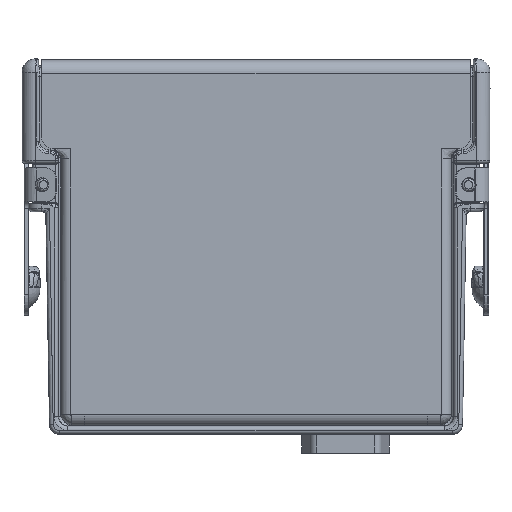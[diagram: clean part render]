
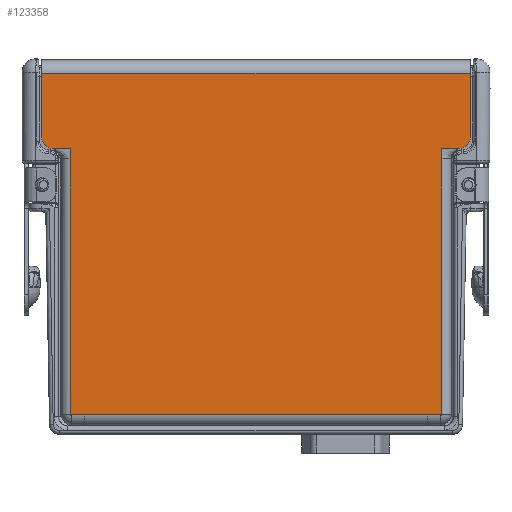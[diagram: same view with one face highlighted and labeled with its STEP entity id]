
A CAD part, left-side view. The second image highlights one B-rep face of the part: STEP entity #123358.
In plain terms, the highlighted planar face has unit normal (1, 0, 0).
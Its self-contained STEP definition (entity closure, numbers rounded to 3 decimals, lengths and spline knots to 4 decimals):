
#121895=CARTESIAN_POINT('',(-0.4475,1.5095,2.2));
#121896=DIRECTION('',(-1.,0.,0.));
#121897=DIRECTION('',(0.,1.,0.));
#121898=AXIS2_PLACEMENT_3D('',#121895,#121896,#121897);
#121900=DIRECTION('',(0.,0.,
-1.));
#121901=VECTOR('',#121900,0.079);
#121902=CARTESIAN_POINT('',(-0.4475,1.3765,2.12));
#121903=LINE('',#121902,#121901);
#121904=DIRECTION('',(0.,0.,
1.));
#121905=VECTOR('',#121904,0.079);
#121906=CARTESIAN_POINT('',(-0.4475,-1.3765,2.041));
#121907=LINE('',#121906,#121905);
#121908=CARTESIAN_POINT('',(-0.4475,-1.5095,2.2));
#121909=DIRECTION('',(-1.,0.,0.));
#121910=DIRECTION('',(0.,0.,-1.));
#121911=AXIS2_PLACEMENT_3D('',#121908,#121909,#121910);
#121929=DIRECTION('',(0.,1.,0.));
#121930=VECTOR('',#121929,0.133);
#121931=CARTESIAN_POINT('',(-0.4475,1.3765,2.12));
#121932=LINE('',#121931,#121930);
#121951=DIRECTION('',(0.,0.,1.));
#121952=VECTOR('',#121951,0.476);
#121953=CARTESIAN_POINT('',(-0.4475,1.5895,2.2));
#121954=LINE('',#121953,#121952);
#121977=DIRECTION('',(0.,1.,0.));
#121978=VECTOR('',#121977,3.179);
#121979=CARTESIAN_POINT('',(-0.4475,-1.5895,2.676));
#121980=LINE('',#121979,#121978);
#122219=DIRECTION('',(0.,0.,-1.));
#122220=VECTOR('',#122219,0.476);
#122221=CARTESIAN_POINT('',(-0.4475,-1.5895,2.676));
#122222=LINE('',#122221,#122220);
#122231=DIRECTION('',(0.,-1.,0.));
#122232=VECTOR('',#122231,0.133);
#122233=CARTESIAN_POINT('',(-0.4475,-1.3765,2.12));
#122234=LINE('',#122233,#122232);
#122252=DIRECTION('',(0.,0.,1.));
#122253=VECTOR('',#122252,1.895);
#122254=CARTESIAN_POINT('',(-0.4475,-1.3765,0.146));
#122255=LINE('',#122254,#122253);
#122274=DIRECTION('',(0.,1.,0.));
#122275=VECTOR('',#122274,0.105);
#122276=CARTESIAN_POINT('',(-0.4475,-1.3765,0.146));
#122277=LINE('',#122276,#122275);
#122296=DIRECTION('',(0.,-1.,0.));
#122297=VECTOR('',#122296,2.543);
#122298=CARTESIAN_POINT('',(-0.4475,1.2715,0.146));
#122299=LINE('',#122298,#122297);
#122318=DIRECTION('',(0.,1.,0.));
#122319=VECTOR('',#122318,0.105);
#122320=CARTESIAN_POINT('',(-0.4475,1.2715,0.146));
#122321=LINE('',#122320,#122319);
#122340=DIRECTION('',(0.,0.,-1.));
#122341=VECTOR('',#122340,1.895);
#122342=CARTESIAN_POINT('',(-0.4475,1.3765,2.041));
#122343=LINE('',#122342,#122341);
#123043=CARTESIAN_POINT('',(-0.4475,1.5895,2.2));
#123044=CARTESIAN_POINT('',(-0.4475,1.5095,2.12));
#123045=VERTEX_POINT('',#123043);
#123046=VERTEX_POINT('',#123044);
#123047=CARTESIAN_POINT('',(-0.4475,1.5895,2.676));
#123048=VERTEX_POINT('',#123047);
#123049=CARTESIAN_POINT('',(-0.4475,-1.5895,2.676));
#123050=VERTEX_POINT('',#123049);
#123051=CARTESIAN_POINT('',(-0.4475,-1.5895,2.2));
#123052=VERTEX_POINT('',#123051);
#123053=CARTESIAN_POINT('',(-0.4475,-1.5095,2.12));
#123054=VERTEX_POINT('',#123053);
#123055=CARTESIAN_POINT('',(-0.4475,-1.3765,2.12));
#123056=VERTEX_POINT('',#123055);
#123057=CARTESIAN_POINT('',(-0.4475,-1.3765,0.146));
#123058=CARTESIAN_POINT('',(-0.4475,-1.3765,2.041));
#123059=VERTEX_POINT('',#123057);
#123060=VERTEX_POINT('',#123058);
#123061=CARTESIAN_POINT('',(-0.4475,-1.2715,0.146));
#123062=VERTEX_POINT('',#123061);
#123063=CARTESIAN_POINT('',(-0.4475,1.2715,0.146));
#123064=VERTEX_POINT('',#123063);
#123065=CARTESIAN_POINT('',(-0.4475,1.3765,0.146));
#123066=VERTEX_POINT('',#123065);
#123067=CARTESIAN_POINT('',(-0.4475,1.3765,2.041));
#123068=VERTEX_POINT('',#123067);
#123069=CARTESIAN_POINT('',(-0.4475,1.3765,2.12));
#123070=VERTEX_POINT('',#123069);
#123323=CARTESIAN_POINT('',(-0.4475,0.,1.411));
#123324=DIRECTION('',(1.,0.,0.));
#123325=DIRECTION('',(0.,1.,0.));
#123326=AXIS2_PLACEMENT_3D('',#123323,#123324,#123325);
#123327=PLANE('',#123326);
#123329=ORIENTED_EDGE('',*,*,#123328,.T.);
#123331=ORIENTED_EDGE('',*,*,#123330,.F.);
#123333=ORIENTED_EDGE('',*,*,#123332,.T.);
#123335=ORIENTED_EDGE('',*,*,#123334,.T.);
#123337=ORIENTED_EDGE('',*,*,#123336,.F.);
#123339=ORIENTED_EDGE('',*,*,#123338,.T.);
#123341=ORIENTED_EDGE('',*,*,#123340,.F.);
#123343=ORIENTED_EDGE('',*,*,#123342,.T.);
#123345=ORIENTED_EDGE('',*,*,#123344,.T.);
#123347=ORIENTED_EDGE('',*,*,#123346,.T.);
#123349=ORIENTED_EDGE('',*,*,#123348,.T.);
#123351=ORIENTED_EDGE('',*,*,#123350,.F.);
#123353=ORIENTED_EDGE('',*,*,#123352,.T.);
#123355=ORIENTED_EDGE('',*,*,#123354,.F.);
#123356=EDGE_LOOP('',(#123329,#123331,#123333,#123335,#123337,#123339,#123341,
#123343,#123345,#123347,#123349,#123351,#123353,#123355));
#123357=FACE_OUTER_BOUND('',#123356,.F.);
#123358=ADVANCED_FACE('',(#123357),#123327,.T.);
#121899=CIRCLE('',#121898,0.08);
#121912=CIRCLE('',#121911,0.08);
#123328=EDGE_CURVE('',#123045,#123046,#121899,.T.);
#123330=EDGE_CURVE('',#123070,#123046,#121932,.T.);
#123332=EDGE_CURVE('',#123070,#123068,#121903,.T.);
#123334=EDGE_CURVE('',#123068,#123066,#122343,.T.);
#123336=EDGE_CURVE('',#123064,#123066,#122321,.T.);
#123338=EDGE_CURVE('',#123064,#123062,#122299,.T.);
#123340=EDGE_CURVE('',#123059,#123062,#122277,.T.);
#123342=EDGE_CURVE('',#123059,#123060,#122255,.T.);
#123344=EDGE_CURVE('',#123060,#123056,#121907,.T.);
#123346=EDGE_CURVE('',#123056,#123054,#122234,.T.);
#123348=EDGE_CURVE('',#123054,#123052,#121912,.T.);
#123350=EDGE_CURVE('',#123050,#123052,#122222,.T.);
#123352=EDGE_CURVE('',#123050,#123048,#121980,.T.);
#123354=EDGE_CURVE('',#123045,#123048,#121954,.T.);
